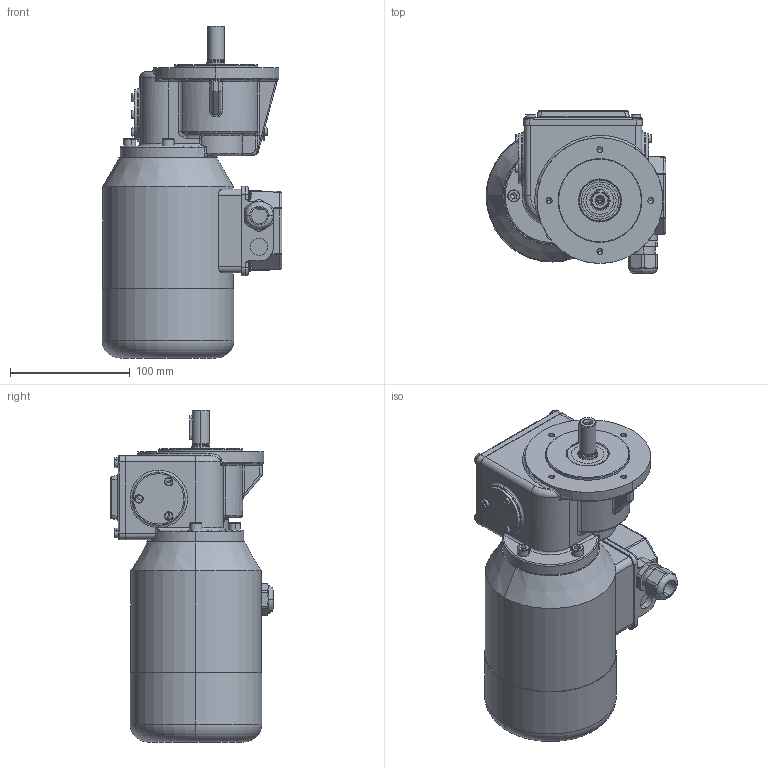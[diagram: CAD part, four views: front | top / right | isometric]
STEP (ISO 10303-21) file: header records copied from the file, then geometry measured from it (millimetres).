
FILE_DESCRIPTION (( 'STEP AP214' ), '1' );
FILE_NAME ('SN2F_120W_2800Upm_Drehstrom-Motor.STEP', '2021-09-22T07:12:47', ( '' ), ( '' ), 'SwSTEP 2.0', 'SolidWorks 2019', '' );
FILE_SCHEMA (( 'AUTOMOTIVE_DESIGN' ));
Length unit declared in the file: millimetre
Products named in the file (13): slotted cheese head screw_iso_ISO 1207 - M5 x 14 - 14C; SN2F_3D_Export; slotted cheese head screw_iso_ISO 1207 - M4 x 12 - 12C; 02F-D-004_3D_Export; 02-M-025 I 120W_2800Upm; 02F-G-004_3D_Export; socket set screw cup point_iso_ISO 4029 - M6 x 25-C; NBR_WDR_15x35x7; PF_A5x5x20; 11-D-006; SN2F_120W_2800Upm_Drehstrom-Motor; 02F-W-001_3D_Export; socket head cap screw_iso_ISO 4762 M6 x 20 - 20C
Assembly tree (22 placements, depth 3):
  SN2F_120W_2800Upm_Drehstrom-Motor
    SN2F_3D_Export
      02F-G-004_3D_Export
      02F-W-001_3D_Export
      02F-D-004_3D_Export
      11-D-006  x2
      NBR_WDR_15x35x7
      PF_A5x5x20
      slotted cheese head screw_iso_ISO 1207 - M5 x 14 - 14C  x4
      slotted cheese head screw_iso_ISO 1207 - M4 x 12 - 12C  x6
      socket head cap screw_iso_ISO 4762 M6 x 20 - 20C  x2
      socket set screw cup point_iso_ISO 4029 - M6 x 25-C
    02-M-025 I 120W_2800Upm
Bounding box: 150 x 135.5 x 277.2 mm (x, y, z)
Volume: 2353907.6 mm3; surface area: 200962.6 mm2
Topology: 23 solids, 24 shells, 1008 faces, 2501 edges, 1557 vertices
Faces by surface type: plane 334, cylinder 299, bspline 159, cone 154, torus 59, sphere 3
Entity records: 31156 total; most frequent: CARTESIAN_POINT 10839, ORIENTED_EDGE 4254, DIRECTION 3814, EDGE_CURVE 2127, AXIS2_PLACEMENT_3D 1478, VERTEX_POINT 1346, EDGE_LOOP 951, FACE_OUTER_BOUND 867
